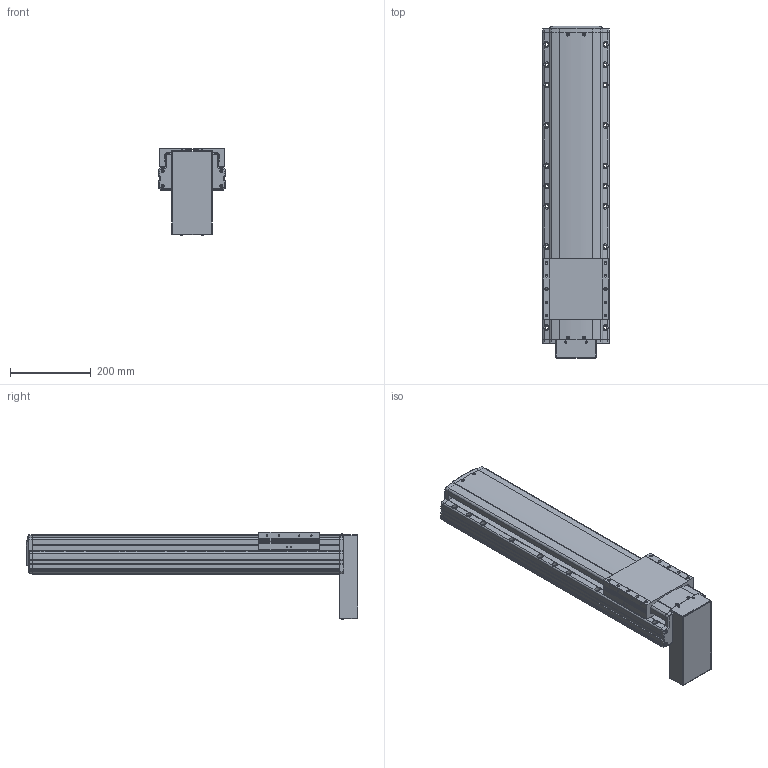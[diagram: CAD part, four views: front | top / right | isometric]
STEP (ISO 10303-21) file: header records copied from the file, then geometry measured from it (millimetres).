
FILE_DESCRIPTION(('STEP AP214'),'1');
FILE_NAME('Z:/Web/3D/PSA165/STP/PSA165-500 (3D)/PSA165ㅁㅁ-500PB.stp','2014-06-23T11:25:24',(' '),(' '),'Spatial InterOp 3D',' ',' ');
FILE_SCHEMA(('automotive_design'));
Length unit declared in the file: millimetre
Products named in the file (29): 스크루 : Round - M4.0 x 12.0; RRCV-PA160; BASE; 스크루 : Round - M4.0 x 10.0; RN15; Screw 20; SLIDE; FRCV; MTPL CV- PB; 스크루 : Round - M3.0 x 6.0; 1; 2
Bounding box: 165 x 820.8 x 215.96 mm (x, y, z)
Volume: 11747252.8 mm3; surface area: 807415.6 mm2
Topology: 29 solids, 29 shells, 2135 faces, 5712 edges, 3640 vertices
Faces by surface type: plane 1166, cylinder 670, cone 206, sphere 52, bspline 25, torus 16
Entity records: 86705 total; most frequent: CARTESIAN_POINT 15390, DIRECTION 11363, ORIENTED_EDGE 11148, EDGE_CURVE 5574, AXIS2_PLACEMENT_3D 3833, LINE 3697, VECTOR 3697, VERTEX_POINT 3640
